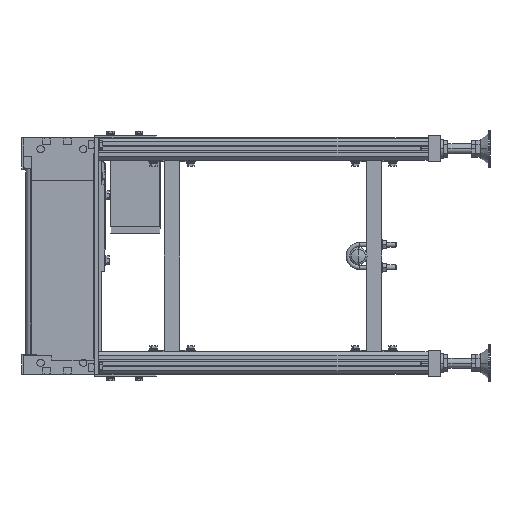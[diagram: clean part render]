
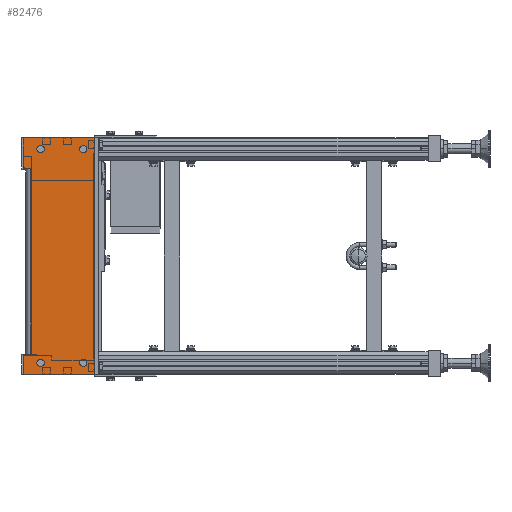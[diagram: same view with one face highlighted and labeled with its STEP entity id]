
A CAD part, left-side view. The second image highlights one B-rep face of the part: STEP entity #82476.
In plain terms, the highlighted planar face has unit normal (-1, 0, 0).
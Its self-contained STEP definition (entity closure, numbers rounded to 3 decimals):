
#466 = CARTESIAN_POINT ( 'NONE',  ( -1.2, -111.1, -191. ) ) ;
#2535 = EDGE_CURVE ( 'NONE', #76733, #15774, #68052, .T. ) ;
#3830 = VERTEX_POINT ( 'NONE', #70220 ) ;
#4487 = ORIENTED_EDGE ( 'NONE', *, *, #14377, .T. ) ;
#5478 = AXIS2_PLACEMENT_3D ( 'NONE', #13887, #63703, #21120 ) ;
#6329 = VERTEX_POINT ( 'NONE', #31140 ) ;
#6966 = EDGE_LOOP ( 'NONE', ( #34200, #41111 ) ) ;
#7776 = DIRECTION ( 'NONE',  ( 0., 0., -1. ) ) ;
#8641 = EDGE_CURVE ( 'NONE', #6329, #86799, #51683, .T. ) ;
#8848 = CARTESIAN_POINT ( 'NONE',  ( -1.2, -93.1, 172.5 ) ) ;
#9440 = FACE_BOUND ( 'NONE', #41056, .T. ) ;
#9865 = ORIENTED_EDGE ( 'NONE', *, *, #2535, .F. ) ;
#9999 = VERTEX_POINT ( 'NONE', #66671 ) ;
#10001 = DIRECTION ( 'NONE',  ( -1., 0., 0. ) ) ;
#10065 = CARTESIAN_POINT ( 'NONE',  ( -1.2, -93.1, 172.5 ) ) ;
#10132 = DIRECTION ( 'NONE',  ( 0., 0., 1. ) ) ;
#10205 = DIRECTION ( 'NONE',  ( 0., -1., 0. ) ) ;
#10765 = CARTESIAN_POINT ( 'NONE',  ( -1.2, -93.1, -172.5 ) ) ;
#11107 = ORIENTED_EDGE ( 'NONE', *, *, #83592, .F. ) ;
#11251 = VERTEX_POINT ( 'NONE', #51066 ) ;
#12017 = AXIS2_PLACEMENT_3D ( 'NONE', #24513, #30765, #10132 ) ;
#12714 = DIRECTION ( 'NONE',  ( 0., 0., 1. ) ) ;
#13887 = CARTESIAN_POINT ( 'NONE',  ( -1.2, -24.1, -172.5 ) ) ;
#14345 = ORIENTED_EDGE ( 'NONE', *, *, #22218, .T. ) ;
#14377 = EDGE_CURVE ( 'NONE', #68091, #61378, #66065, .T. ) ;
#14735 = CARTESIAN_POINT ( 'NONE',  ( -1.2, 3.9, -191. ) ) ;
#15774 = VERTEX_POINT ( 'NONE', #68664 ) ;
#16489 = ORIENTED_EDGE ( 'NONE', *, *, #22050, .F. ) ;
#17746 = LINE ( 'NONE', #77706, #28979 ) ;
#18249 = DIRECTION ( 'NONE',  ( 0., 0., 1. ) ) ;
#19752 = EDGE_CURVE ( 'NONE', #84144, #3830, #48581, .T. ) ;
#20263 = VERTEX_POINT ( 'NONE', #79945 ) ;
#20380 = LINE ( 'NONE', #59972, #50621 ) ;
#20507 = CIRCLE ( 'NONE', #23802, 5.9 ) ;
#21120 = DIRECTION ( 'NONE',  ( 0., 0., 1. ) ) ;
#22050 = EDGE_CURVE ( 'NONE', #34015, #59341, #30191, .T. ) ;
#22218 = EDGE_CURVE ( 'NONE', #9999, #84543, #53640, .T. ) ;
#23388 = DIRECTION ( 'NONE',  ( 0., 0., 1. ) ) ;
#23535 = CARTESIAN_POINT ( 'NONE',  ( -1.2, -111.1, 191. ) ) ;
#23802 = AXIS2_PLACEMENT_3D ( 'NONE', #24009, #31207, #23388 ) ;
#24009 = CARTESIAN_POINT ( 'NONE',  ( -1.2, -24.1, -172.5 ) ) ;
#24513 = CARTESIAN_POINT ( 'NONE',  ( -1.2, -24.1, 172.5 ) ) ;
#24774 = ORIENTED_EDGE ( 'NONE', *, *, #83441, .F. ) ;
#25840 = CARTESIAN_POINT ( 'NONE',  ( -1.2, -24.1, -166.6 ) ) ;
#26634 = VERTEX_POINT ( 'NONE', #25840 ) ;
#27733 = CARTESIAN_POINT ( 'NONE',  ( -1.2, -93.1, -172.5 ) ) ;
#28633 = CARTESIAN_POINT ( 'NONE',  ( -1.2, 3.9, 191. ) ) ;
#28979 = VECTOR ( 'NONE', #34889, 1000. ) ;
#29241 = CARTESIAN_POINT ( 'NONE',  ( -1.2, -24.1, 178.4 ) ) ;
#30191 = CIRCLE ( 'NONE', #62627, 5.9 ) ;
#30663 = PLANE ( 'NONE',  #60660 ) ;
#30765 = DIRECTION ( 'NONE',  ( -1., 0., 0. ) ) ;
#31140 = CARTESIAN_POINT ( 'NONE',  ( -1.2, 3.9, -160. ) ) ;
#31207 = DIRECTION ( 'NONE',  ( -1., 0., 0. ) ) ;
#31920 = CARTESIAN_POINT ( 'NONE',  ( -1.2, -8.1, 141. ) ) ;
#33096 = ORIENTED_EDGE ( 'NONE', *, *, #8641, .T. ) ;
#34015 = VERTEX_POINT ( 'NONE', #48197 ) ;
#34200 = ORIENTED_EDGE ( 'NONE', *, *, #69794, .F. ) ;
#34889 = DIRECTION ( 'NONE',  ( 0., 0., -1. ) ) ;
#35878 = VECTOR ( 'NONE', #57723, 1000. ) ;
#36602 = CIRCLE ( 'NONE', #5478, 5.9 ) ;
#38115 = DIRECTION ( 'NONE',  ( -1., 0., 0. ) ) ;
#38401 = CARTESIAN_POINT ( 'NONE',  ( -1.2, -24.1, 172.5 ) ) ;
#38847 = AXIS2_PLACEMENT_3D ( 'NONE', #27733, #56327, #12714 ) ;
#39473 = CARTESIAN_POINT ( 'NONE',  ( -1.2, -93.1, -166.6 ) ) ;
#39926 = AXIS2_PLACEMENT_3D ( 'NONE', #8848, #88453, #81924 ) ;
#41056 = EDGE_LOOP ( 'NONE', ( #16489, #11107 ) ) ;
#41111 = ORIENTED_EDGE ( 'NONE', *, *, #66241, .F. ) ;
#42295 = AXIS2_PLACEMENT_3D ( 'NONE', #10065, #73531, #88396 ) ;
#43048 = EDGE_LOOP ( 'NONE', ( #87652, #62839 ) ) ;
#45389 = ORIENTED_EDGE ( 'NONE', *, *, #69805, .T. ) ;
#46654 = DIRECTION ( 'NONE',  ( -1., 0., 0. ) ) ;
#46844 = CARTESIAN_POINT ( 'NONE',  ( -1.2, 3.9, -191. ) ) ;
#48049 = CARTESIAN_POINT ( 'NONE',  ( -1.2, -24.1, -178.4 ) ) ;
#48197 = CARTESIAN_POINT ( 'NONE',  ( -1.2, -93.1, -178.4 ) ) ;
#48581 = CIRCLE ( 'NONE', #42295, 5.9 ) ;
#49472 = VECTOR ( 'NONE', #7776, 1000. ) ;
#49858 = ORIENTED_EDGE ( 'NONE', *, *, #68873, .T. ) ;
#50621 = VECTOR ( 'NONE', #10205, 1000. ) ;
#51066 = CARTESIAN_POINT ( 'NONE',  ( -1.2, 3.9, 141. ) ) ;
#51683 = LINE ( 'NONE', #46844, #71585 ) ;
#53640 = LINE ( 'NONE', #466, #85850 ) ;
#54109 = CARTESIAN_POINT ( 'NONE',  ( -1.2, -93.1, 178.4 ) ) ;
#55107 = FACE_BOUND ( 'NONE', #74094, .T. ) ;
#55737 = VECTOR ( 'NONE', #82092, 1000. ) ;
#56327 = DIRECTION ( 'NONE',  ( -1., 0., 0. ) ) ;
#56591 = DIRECTION ( 'NONE',  ( 0., 1., 0. ) ) ;
#56797 = LINE ( 'NONE', #68115, #55737 ) ;
#57723 = DIRECTION ( 'NONE',  ( 0., -1., 0. ) ) ;
#59207 = CARTESIAN_POINT ( 'NONE',  ( -1.2, 5.9, 0. ) ) ;
#59341 = VERTEX_POINT ( 'NONE', #39473 ) ;
#59542 = FACE_OUTER_BOUND ( 'NONE', #59859, .T. ) ;
#59776 = DIRECTION ( 'NONE',  ( 0., 0., 1. ) ) ;
#59859 = EDGE_LOOP ( 'NONE', ( #72211, #14345, #45389, #49858, #71896, #4487, #88063, #33096 ) ) ;
#59972 = CARTESIAN_POINT ( 'NONE',  ( -1.2, 3.9, 141. ) ) ;
#60081 = VERTEX_POINT ( 'NONE', #48049 ) ;
#60660 = AXIS2_PLACEMENT_3D ( 'NONE', #59207, #38115, #74423 ) ;
#61378 = VERTEX_POINT ( 'NONE', #69784 ) ;
#62119 = VECTOR ( 'NONE', #56591, 1000. ) ;
#62627 = AXIS2_PLACEMENT_3D ( 'NONE', #10765, #46654, #18249 ) ;
#62839 = ORIENTED_EDGE ( 'NONE', *, *, #19752, .F. ) ;
#63703 = DIRECTION ( 'NONE',  ( -1., 0., 0. ) ) ;
#63803 = CIRCLE ( 'NONE', #38847, 5.9 ) ;
#64222 = DIRECTION ( 'NONE',  ( 0., 0., 1. ) ) ;
#65054 = FACE_BOUND ( 'NONE', #6966, .T. ) ;
#66065 = LINE ( 'NONE', #71227, #49472 ) ;
#66241 = EDGE_CURVE ( 'NONE', #26634, #60081, #20507, .T. ) ;
#66671 = CARTESIAN_POINT ( 'NONE',  ( -1.2, -111.1, -191. ) ) ;
#67796 = EDGE_CURVE ( 'NONE', #86799, #9999, #76937, .T. ) ;
#68052 = CIRCLE ( 'NONE', #12017, 5.9 ) ;
#68091 = VERTEX_POINT ( 'NONE', #31920 ) ;
#68115 = CARTESIAN_POINT ( 'NONE',  ( -1.2, 3.9, -160. ) ) ;
#68664 = CARTESIAN_POINT ( 'NONE',  ( -1.2, -24.1, 166.6 ) ) ;
#68873 = EDGE_CURVE ( 'NONE', #20263, #11251, #17746, .T. ) ;
#69105 = DIRECTION ( 'NONE',  ( 0., 0., -1. ) ) ;
#69505 = FACE_BOUND ( 'NONE', #43048, .T. ) ;
#69784 = CARTESIAN_POINT ( 'NONE',  ( -1.2, -8.1, -160. ) ) ;
#69794 = EDGE_CURVE ( 'NONE', #60081, #26634, #36602, .T. ) ;
#69805 = EDGE_CURVE ( 'NONE', #84543, #20263, #77642, .T. ) ;
#70220 = CARTESIAN_POINT ( 'NONE',  ( -1.2, -93.1, 166.6 ) ) ;
#71227 = CARTESIAN_POINT ( 'NONE',  ( -1.2, -8.1, -160. ) ) ;
#71585 = VECTOR ( 'NONE', #69105, 1000. ) ;
#71896 = ORIENTED_EDGE ( 'NONE', *, *, #88863, .T. ) ;
#72211 = ORIENTED_EDGE ( 'NONE', *, *, #67796, .T. ) ;
#73531 = DIRECTION ( 'NONE',  ( -1., 0., 0. ) ) ;
#73823 = CIRCLE ( 'NONE', #76927, 5.9 ) ;
#73863 = EDGE_CURVE ( 'NONE', #3830, #84144, #84545, .T. ) ;
#74094 = EDGE_LOOP ( 'NONE', ( #24774, #9865 ) ) ;
#74423 = DIRECTION ( 'NONE',  ( 0., 0., 1. ) ) ;
#76733 = VERTEX_POINT ( 'NONE', #29241 ) ;
#76927 = AXIS2_PLACEMENT_3D ( 'NONE', #38401, #10001, #59776 ) ;
#76937 = LINE ( 'NONE', #14735, #35878 ) ;
#77642 = LINE ( 'NONE', #28633, #62119 ) ;
#77706 = CARTESIAN_POINT ( 'NONE',  ( -1.2, 3.9, 141. ) ) ;
#79945 = CARTESIAN_POINT ( 'NONE',  ( -1.2, 3.9, 191. ) ) ;
#81924 = DIRECTION ( 'NONE',  ( 0., 0., 1. ) ) ;
#82092 = DIRECTION ( 'NONE',  ( 0., 1., 0. ) ) ;
#82476 = ADVANCED_FACE ( 'NONE', ( #9440, #65054, #69505, #55107, #59542 ), #30663, .T. ) ;
#83441 = EDGE_CURVE ( 'NONE', #15774, #76733, #73823, .T. ) ;
#83592 = EDGE_CURVE ( 'NONE', #59341, #34015, #63803, .T. ) ;
#84144 = VERTEX_POINT ( 'NONE', #54109 ) ;
#84543 = VERTEX_POINT ( 'NONE', #23535 ) ;
#84545 = CIRCLE ( 'NONE', #39926, 5.9 ) ;
#85269 = EDGE_CURVE ( 'NONE', #61378, #6329, #56797, .T. ) ;
#85850 = VECTOR ( 'NONE', #64222, 1000. ) ;
#86799 = VERTEX_POINT ( 'NONE', #87277 ) ;
#87277 = CARTESIAN_POINT ( 'NONE',  ( -1.2, 3.9, -191. ) ) ;
#87652 = ORIENTED_EDGE ( 'NONE', *, *, #73863, .F. ) ;
#88063 = ORIENTED_EDGE ( 'NONE', *, *, #85269, .T. ) ;
#88396 = DIRECTION ( 'NONE',  ( 0., 0., 1. ) ) ;
#88453 = DIRECTION ( 'NONE',  ( -1., 0., 0. ) ) ;
#88863 = EDGE_CURVE ( 'NONE', #11251, #68091, #20380, .T. ) ;
